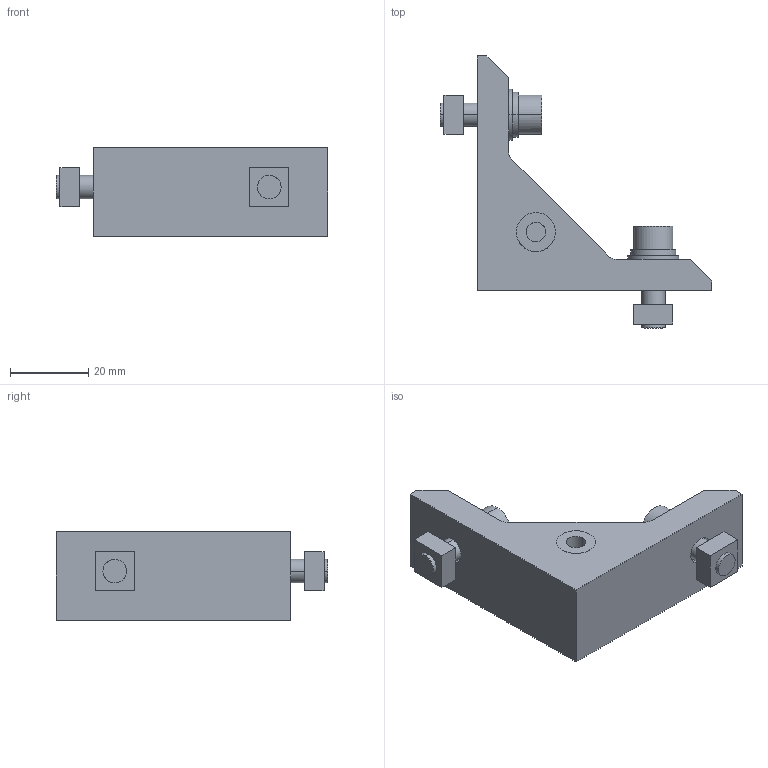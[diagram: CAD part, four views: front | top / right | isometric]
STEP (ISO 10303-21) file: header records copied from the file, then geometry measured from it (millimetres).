
FILE_DESCRIPTION(/* description */ (''),/* implementation_level */ '2;1');
FILE_NAME(/* name */ 'ABCH-6025-6-C5',/* time_stamp */ '2012-03-08T15:57:45+09:00',/* author */ (''),/* organization */ (''),/* preprocessor_version */ 'ST-DEVELOPER v10',/* originating_system */ '',/* authorisation */ '');
FILE_SCHEMA (('CONFIG_CONTROL_DESIGN'));
Length unit declared in the file: millimetre
Products named in the file (1): 1
Bounding box: 69.5 x 69.5 x 22.5 mm (x, y, z)
Volume: 29726.5 mm3; surface area: 11887.7 mm2
Topology: 7 solids, 7 shells, 71 faces, 153 edges, 102 vertices
Faces by surface type: plane 37, bspline 34
Entity records: 2085 total; most frequent: CARTESIAN_POINT 975, ORIENTED_EDGE 306, EDGE_CURVE 153, VERTEX_POINT 102, EDGE_LOOP 89, B_SPLINE_CURVE_WITH_KNOTS 85, ADVANCED_FACE 71, FACE_OUTER_BOUND 71
